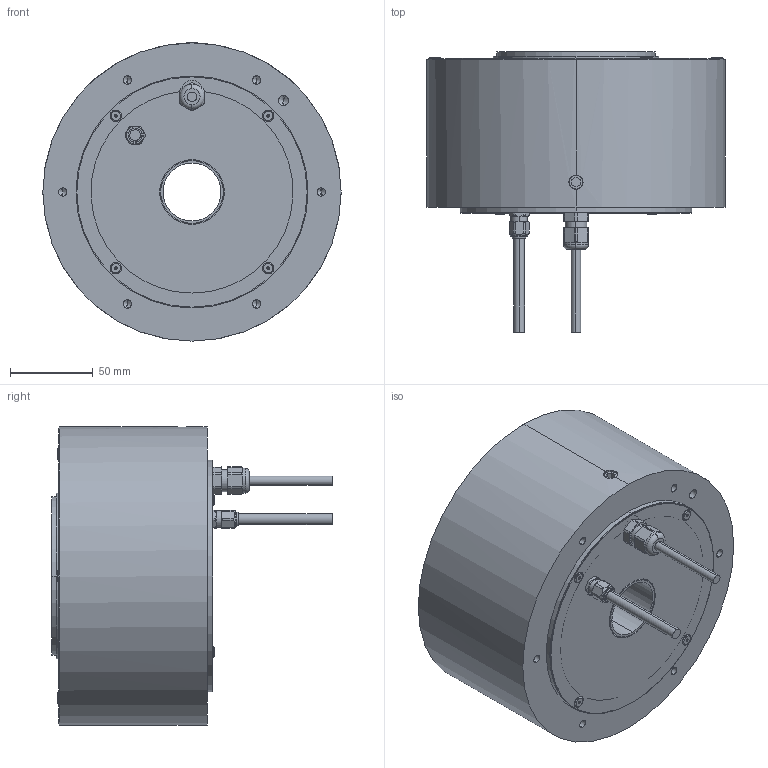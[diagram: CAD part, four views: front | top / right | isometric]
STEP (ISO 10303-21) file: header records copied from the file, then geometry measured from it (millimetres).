
FILE_DESCRIPTION (( 'STEP AP214' ), '1' );
FILE_NAME ('ND180-95-LSPB-UC.step', '2025-03-11T01:04:33', ( '' ), ( '' ), 'SwSTEP 2.0', 'SolidWorks 2024', '' );
FILE_SCHEMA (( 'AUTOMOTIVE_DESIGN' ));
Length unit declared in the file: millimetre
Products named in the file (1): ND180-95-LSPB-UC
Bounding box: 180 x 169.3 x 180 mm (x, y, z)
Volume: 767658.7 mm3; surface area: 237573.3 mm2
Topology: 17 solids, 17 shells, 673 faces, 1705 edges, 1058 vertices
Faces by surface type: cylinder 380, cone 131, plane 107, torus 30, sphere 20, bspline 5
Entity records: 21475 total; most frequent: CARTESIAN_POINT 5231, DIRECTION 3486, ORIENTED_EDGE 3266, EDGE_CURVE 1633, AXIS2_PLACEMENT_3D 1437, VERTEX_POINT 1058, EDGE_LOOP 771, CIRCLE 768
